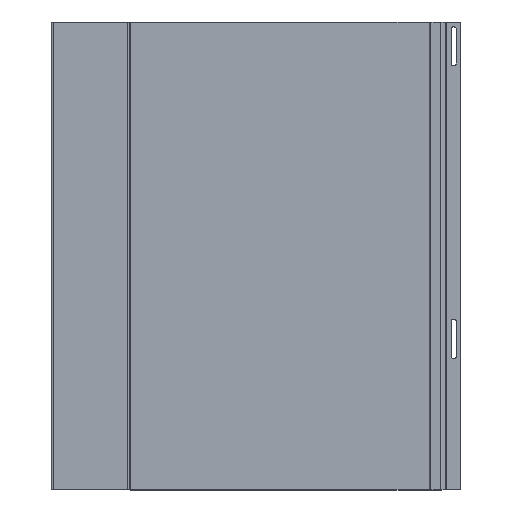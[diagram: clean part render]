
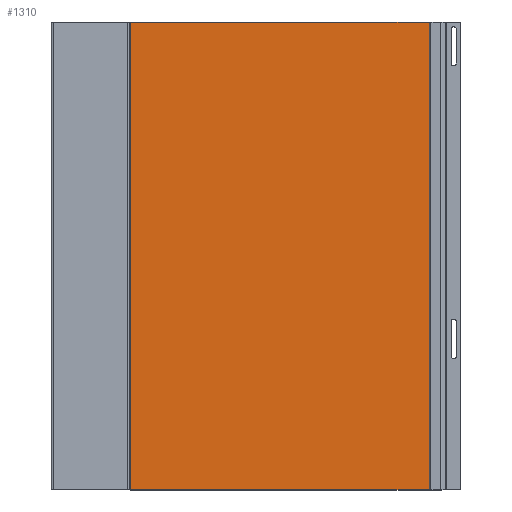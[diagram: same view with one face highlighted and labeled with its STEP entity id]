
A CAD part, top view. The second image highlights one B-rep face of the part: STEP entity #1310.
In plain terms, the highlighted planar face has unit normal (0, 0, 1).
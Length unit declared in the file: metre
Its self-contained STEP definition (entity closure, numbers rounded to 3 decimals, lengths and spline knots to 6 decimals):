
#228=ORIENTED_EDGE('',*,*,#532,.T.);
#229=ORIENTED_EDGE('',*,*,#535,.F.);
#230=ORIENTED_EDGE('',*,*,#528,.F.);
#231=ORIENTED_EDGE('',*,*,#527,.T.);
#527=EDGE_CURVE('',#682,#680,#803,.F.);
#528=EDGE_CURVE('',#682,#684,#804,.T.);
#532=EDGE_CURVE('',#680,#686,#808,.T.);
#535=EDGE_CURVE('',#684,#686,#811,.T.);
#680=VERTEX_POINT('',#2041);
#682=VERTEX_POINT('',#2047);
#684=VERTEX_POINT('',#2057);
#686=VERTEX_POINT('',#2063);
#803=LINE('',#2054,#943);
#804=LINE('',#2056,#944);
#808=LINE('',#2065,#948);
#811=LINE('',#2070,#951);
#943=VECTOR('',#1658,1.);
#944=VECTOR('',#1661,1.);
#948=VECTOR('',#1667,1.);
#951=VECTOR('',#1674,1.);
#1068=EDGE_LOOP('',(#228,#229,#230,#231));
#1158=FACE_BOUND('',#1068,.T.);
#1240=PLANE('',#1425);
#1310=ADVANCED_FACE('',(#1158),#1240,.F.);
#1425=AXIS2_PLACEMENT_3D('',#2069,#1672,#1673);
#1658=DIRECTION('',(0.,1.,0.));
#1661=DIRECTION('',(1.,0.,0.));
#1667=DIRECTION('',(1.,0.,0.));
#1672=DIRECTION('',(0.,0.,-1.));
#1673=DIRECTION('',(-1.,0.,0.));
#1674=DIRECTION('',(0.,-1.,0.));
#2041=CARTESIAN_POINT('',(0.043625,-0.3048,0.));
#2047=CARTESIAN_POINT('',(0.043625,0.,0.));
#2054=CARTESIAN_POINT('',(0.043625,0.,0.));
#2056=CARTESIAN_POINT('',(0.058951,0.,0.));
#2057=CARTESIAN_POINT('',(0.246063,0.,0.));
#2063=CARTESIAN_POINT('',(0.246063,-0.3048,0.));
#2065=CARTESIAN_POINT('',(0.058951,-0.3048,0.));
#2069=CARTESIAN_POINT('',(0.058951,0.,0.));
#2070=CARTESIAN_POINT('',(0.246063,0.,0.));
